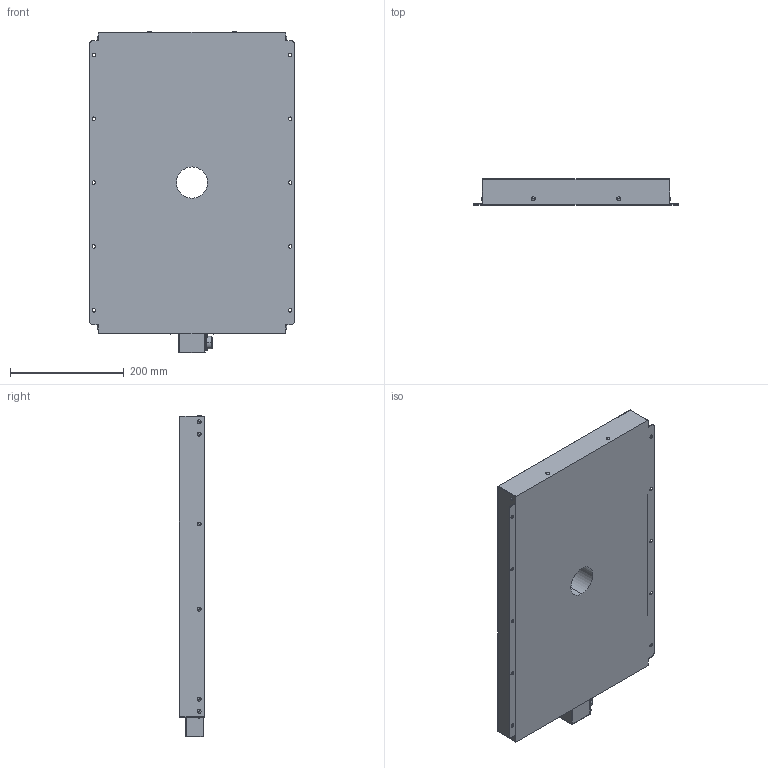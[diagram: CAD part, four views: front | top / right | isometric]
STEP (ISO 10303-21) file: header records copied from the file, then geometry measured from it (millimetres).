
FILE_DESCRIPTION (( 'STEP AP203' ), '1' );
FILE_NAME ('IFPA-500_300仩HV-55D(奜娤恾).STEP', '2016-06-29T06:25:25', ( 'imac139_182' ), ( 'Microsoft' ), 'SwSTEP 2.0', 'SolidWorks 2014', '' );
FILE_SCHEMA (( 'CONFIG_CONTROL_DESIGN' ));
Length unit declared in the file: millimetre
Products named in the file (1): IFPA-500_300仩HV-55D(奜娤恾)
Bounding box: 360 x 45 x 566.9 mm (x, y, z)
Volume: 7685715.1 mm3; surface area: 467863.2 mm2
Topology: 1 solids, 1 shells, 196 faces, 500 edges, 318 vertices
Faces by surface type: cylinder 98, sphere 56, plane 32, torus 8, cone 2
Entity records: 6007 total; most frequent: DIRECTION 1172, CARTESIAN_POINT 983, ORIENTED_EDGE 952, AXIS2_PLACEMENT_3D 499, EDGE_CURVE 476, VERTEX_POINT 310, CIRCLE 302, EDGE_LOOP 246
